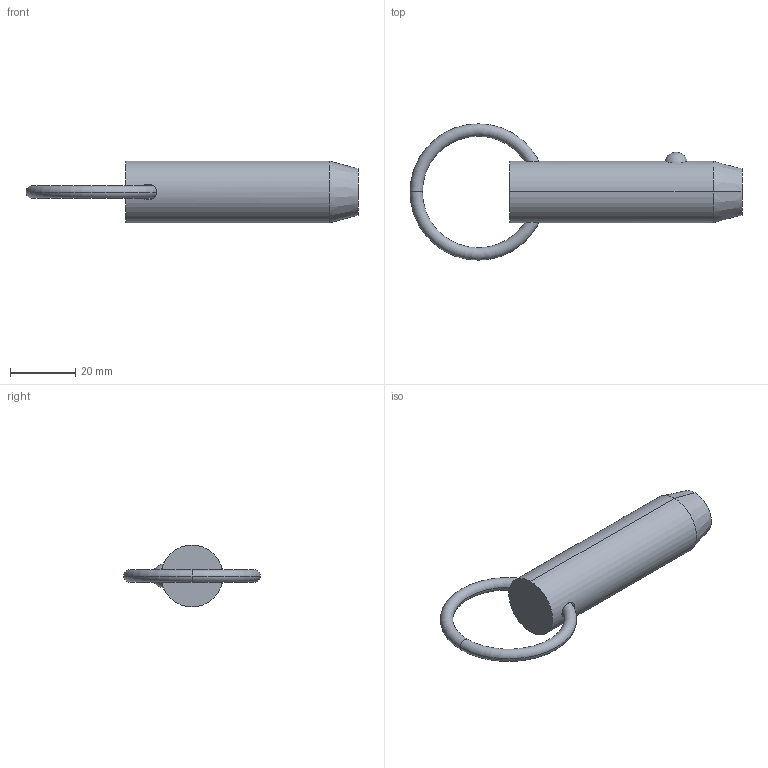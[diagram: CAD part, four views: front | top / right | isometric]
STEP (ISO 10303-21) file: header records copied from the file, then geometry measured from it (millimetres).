
FILE_DESCRIPTION (( 'STEP AP203' ), '1' );
FILE_NAME ('33010.W7515.step', '2024-11-01T10:43:26', ( '' ), ( '' ), 'SwSTEP 2.0', 'SolidWorks 2019', '' );
FILE_SCHEMA (( 'CONFIG_CONTROL_DESIGN' ));
Length unit declared in the file: millimetre
Products named in the file (3): Part1_33010.W7515; Part2_33010.W7515; 33010.W7515
Assembly tree (2 placements, depth 2):
  33010.W7515
    Part1_33010.W7515
    Part2_33010.W7515
Bounding box: 102.05 x 41.91 x 19.05 mm (x, y, z)
Volume: 20860.1 mm3; surface area: 6383.6 mm2
Topology: 2 solids, 2 shells, 16 faces, 31 edges, 18 vertices
Faces by surface type: torus 8, sphere 2, cone 2, cylinder 2, plane 2
Entity records: 893 total; most frequent: CARTESIAN_POINT 250, DIRECTION 88, ORIENTED_EDGE 62, AXIS2_PLACEMENT_3D 42, EDGE_CURVE 31, PERSON_AND_ORGANIZATION 26, CIRCLE 21, DATE_AND_TIME 19
